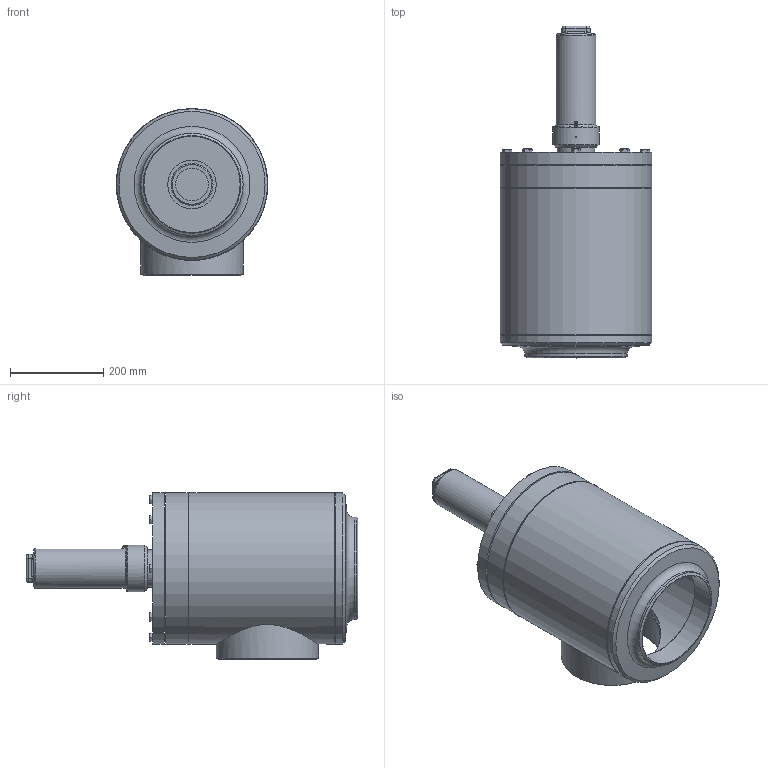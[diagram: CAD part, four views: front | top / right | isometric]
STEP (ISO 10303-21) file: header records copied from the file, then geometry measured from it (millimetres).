
FILE_DESCRIPTION((''),'2;1');
FILE_NAME('Y:\Konstruktion\_3D-SolidWorks_Arbeit (Grams)\___x___Temp\AVB16400C23A5A3AA00_DN200_R1_PS25.stp','2012-01-23T08:31:31',('Jacob.Er'),(''),'Autodesk Inventor 2011','Autodesk Inventor 2011','');
FILE_SCHEMA(('AUTOMOTIVE_DESIGN { 1 0 10303 214 1 1 1 1 }'));
Length unit declared in the file: millimetre
Products named in the file (16): AVB16400C23A5A3AA00_DN200_R1_PS25; Geh,kpl 16300B23-5030AA1_DN200_R1; Gehäuse16300-DN200; Kopfstück16300-DN200; Boden16300a-23_R1; Rohrstutzen-A16300a-23_R1; bead Geh,kpl 16300a-23-1; bead Geh,kpl 16300a-23-2; AVB16300B23_Deck+Schr-DN200; Deck,kpl 16300B23-DN200; Scheibe f Deckel16300-DN200; Buchse f Deckel16300-DN200; bead deck,kpl 16300-23-1; bead deck,kpl 16300-23-2; Sechskantschraube-DIN933; Kappe 16402-23_DN200-350 (M80x3)
Assembly tree (22 placements, depth 4):
  AVB16400C23A5A3AA00_DN200_R1_PS25
    Geh,kpl 16300B23-5030AA1_DN200_R1
      Gehäuse16300-DN200
      Kopfstück16300-DN200
      Boden16300a-23_R1
      Rohrstutzen-A16300a-23_R1
      bead Geh,kpl 16300a-23-1
      bead Geh,kpl 16300a-23-2
    AVB16300B23_Deck+Schr-DN200
      Deck,kpl 16300B23-DN200
        Scheibe f Deckel16300-DN200
        Buchse f Deckel16300-DN200
        bead deck,kpl 16300-23-1
        bead deck,kpl 16300-23-2
      Sechskantschraube-DIN933  x8
    Kappe 16402-23_DN200-350 (M80x3)
Bounding box: 325 x 711 x 357.5 mm (x, y, z)
Volume: 11421395.4 mm3; surface area: 1605457.6 mm2
Topology: 19 solids, 19 shells, 343 faces, 729 edges, 445 vertices
Faces by surface type: plane 120, cone 115, cylinder 70, bspline 32, torus 6
Full cylindrical faces by diameter (mm): 2 x1, 3 x1, 12 x8, 18 x8, 45 x1, 55 x1, 62 x1, 70.1 x1, 72 x1, 77 x1, 80 x1, 82 x2, 84 x2, 84.1 x1, 85 x2, 100 x1, 104 x1, 204.9 x1, 206 x1, 206.3 x1, 219.1 x2, 240 x2, 260 x2, 303.9 x1, 323.9 x1, 324 x2, 325 x1
Entity records: 7926 total; most frequent: CARTESIAN_POINT 3976, DIRECTION 761, ORIENTED_EDGE 612, AXIS2_PLACEMENT_3D 357, EDGE_CURVE 306, EDGE_LOOP 291, VERTEX_POINT 217, FACE_OUTER_BOUND 182
